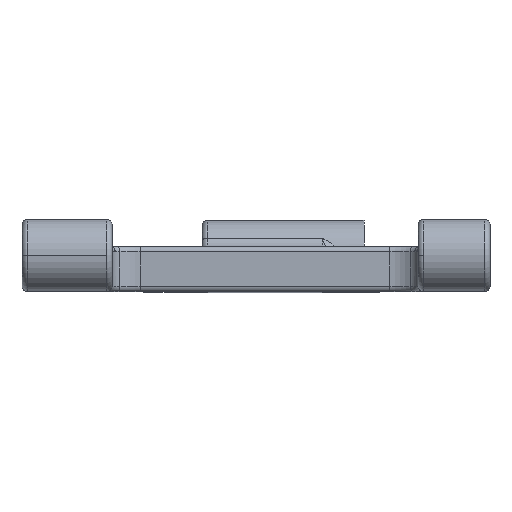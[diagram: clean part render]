
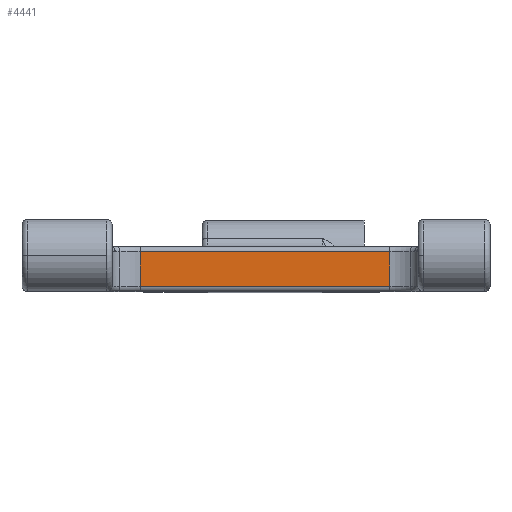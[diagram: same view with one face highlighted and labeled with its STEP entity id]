
A CAD part, top view. The second image highlights one B-rep face of the part: STEP entity #4441.
In plain terms, the highlighted planar face has unit normal (0, 0, 1).
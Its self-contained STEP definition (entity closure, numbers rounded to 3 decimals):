
#21 = CARTESIAN_POINT ( 'NONE',  ( 13.878, 8., -8.5 ) ) ;
#66 = DIRECTION ( 'NONE',  ( 0., 1., 0. ) ) ;
#175 = VECTOR ( 'NONE', #4975, 1000. ) ;
#358 = VECTOR ( 'NONE', #66, 1000. ) ;
#659 = LINE ( 'NONE', #1002, #358 ) ;
#1002 = CARTESIAN_POINT ( 'NONE',  ( -13.878, 8., -8.5 ) ) ;
#1102 = CARTESIAN_POINT ( 'NONE',  ( -16.333, 8., -8.5 ) ) ;
#1176 = EDGE_CURVE ( 'NONE', #4217, #1468, #659, .T. ) ;
#1235 = VECTOR ( 'NONE', #3020, 1000. ) ;
#1468 = VERTEX_POINT ( 'NONE', #3523 ) ;
#1825 = ORIENTED_EDGE ( 'NONE', *, *, #2762, .F. ) ;
#2112 = DIRECTION ( 'NONE',  ( 1., 0., 0. ) ) ;
#2395 = CARTESIAN_POINT ( 'NONE',  ( -13.878, 0.6, -8.5 ) ) ;
#2494 = ORIENTED_EDGE ( 'NONE', *, *, #4612, .F. ) ;
#2625 = VERTEX_POINT ( 'NONE', #3222 ) ;
#2691 = FACE_OUTER_BOUND ( 'NONE', #2756, .T. ) ;
#2756 = EDGE_LOOP ( 'NONE', ( #5305, #2494, #6585, #1825 ) ) ;
#2762 = EDGE_CURVE ( 'NONE', #4214, #4217, #4479, .T. ) ;
#3020 = DIRECTION ( 'NONE',  ( 0., -1., 0. ) ) ;
#3032 = CARTESIAN_POINT ( 'NONE',  ( 13.878, 0.6, -8.5 ) ) ;
#3222 = CARTESIAN_POINT ( 'NONE',  ( 13.878, 4.4, -8.5 ) ) ;
#3364 = DIRECTION ( 'NONE',  ( 1., 0., 0. ) ) ;
#3523 = CARTESIAN_POINT ( 'NONE',  ( -13.878, 4.4, -8.5 ) ) ;
#4076 = CARTESIAN_POINT ( 'NONE',  ( -13.878, 0.6, -8.5 ) ) ;
#4214 = VERTEX_POINT ( 'NONE', #3032 ) ;
#4217 = VERTEX_POINT ( 'NONE', #4076 ) ;
#4441 = ADVANCED_FACE ( 'NONE', ( #2691 ), #4675, .F. ) ;
#4479 = LINE ( 'NONE', #2395, #175 ) ;
#4612 = EDGE_CURVE ( 'NONE', #1468, #2625, #6437, .T. ) ;
#4675 = PLANE ( 'NONE',  #5018 ) ;
#4975 = DIRECTION ( 'NONE',  ( -1., 0., 0. ) ) ;
#5018 = AXIS2_PLACEMENT_3D ( 'NONE', #1102, #5175, #2112 ) ;
#5087 = VECTOR ( 'NONE', #3364, 1000. ) ;
#5175 = DIRECTION ( 'NONE',  ( 0., 0., -1. ) ) ;
#5236 = LINE ( 'NONE', #21, #1235 ) ;
#5305 = ORIENTED_EDGE ( 'NONE', *, *, #5327, .F. ) ;
#5327 = EDGE_CURVE ( 'NONE', #2625, #4214, #5236, .T. ) ;
#5404 = CARTESIAN_POINT ( 'NONE',  ( -16.333, 4.4, -8.5 ) ) ;
#6437 = LINE ( 'NONE', #5404, #5087 ) ;
#6585 = ORIENTED_EDGE ( 'NONE', *, *, #1176, .F. ) ;
